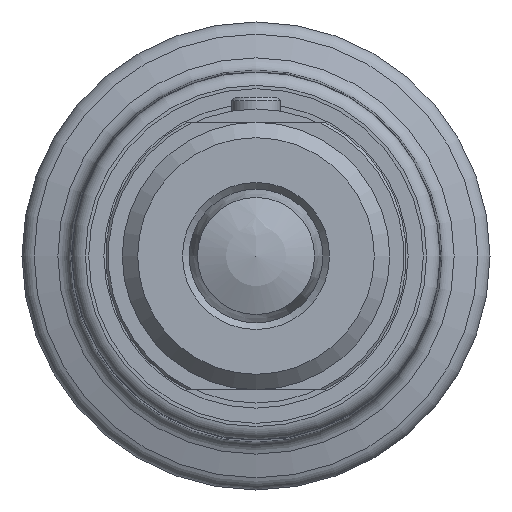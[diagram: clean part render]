
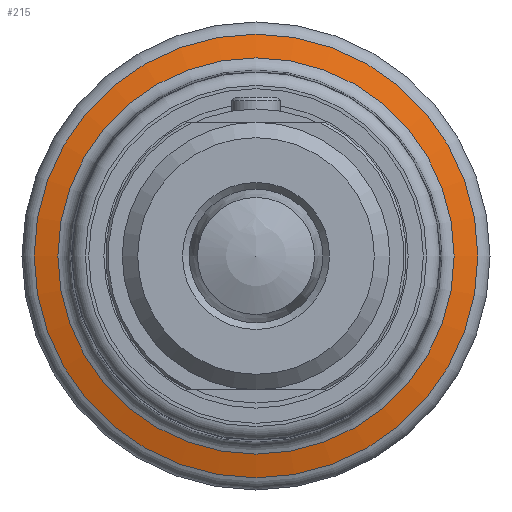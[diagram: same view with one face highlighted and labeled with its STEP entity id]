
A CAD part, left-side view. The second image highlights one B-rep face of the part: STEP entity #215.
In plain terms, the highlighted conical face has half-angle 74.478 degrees and reference radius 13.274 mm.
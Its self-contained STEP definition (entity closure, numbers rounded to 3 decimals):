
#215 = ADVANCED_FACE( '', ( #363, #364 ), #365, .T. );
#363 = FACE_BOUND( '', #527, .T. );
#364 = FACE_OUTER_BOUND( '', #528, .T. );
#365 = CONICAL_SURFACE( '', #529, 13.274, 1.3 );
#527 = EDGE_LOOP( '', ( #820 ) );
#528 = EDGE_LOOP( '', ( #821 ) );
#529 = AXIS2_PLACEMENT_3D( '', #822, #823, #824 );
#820 = ORIENTED_EDGE( '', *, *, #931, .F. );
#821 = ORIENTED_EDGE( '', *, *, #932, .T. );
#822 = CARTESIAN_POINT( '', ( 6.825, 0., 0. ) );
#823 = DIRECTION( '', ( -1., 0., 0. ) );
#824 = DIRECTION( '', ( 0., 0., 1. ) );
#931 = EDGE_CURVE( '', #1060, #1060, #1061, .T. );
#932 = EDGE_CURVE( '', #1062, #1062, #1063, .T. );
#1060 = VERTEX_POINT( '', #1583 );
#1061 = CIRCLE( '', #1584, 11.854 );
#1062 = VERTEX_POINT( '', #1585 );
#1063 = CIRCLE( '', #1586, 13.274 );
#1583 = CARTESIAN_POINT( '', ( 7.22, 0., -11.854 ) );
#1584 = AXIS2_PLACEMENT_3D( '', #1731, #1732, #1733 );
#1585 = CARTESIAN_POINT( '', ( 6.825, 0., -13.274 ) );
#1586 = AXIS2_PLACEMENT_3D( '', #1734, #1735, #1736 );
#1731 = CARTESIAN_POINT( '', ( 7.22, 0., 0. ) );
#1732 = DIRECTION( '', ( 1., 0., 0. ) );
#1733 = DIRECTION( '', ( 0., 0., -1. ) );
#1734 = CARTESIAN_POINT( '', ( 6.825, 0., 0. ) );
#1735 = DIRECTION( '', ( 1., 0., 0. ) );
#1736 = DIRECTION( '', ( 0., 0., -1. ) );
